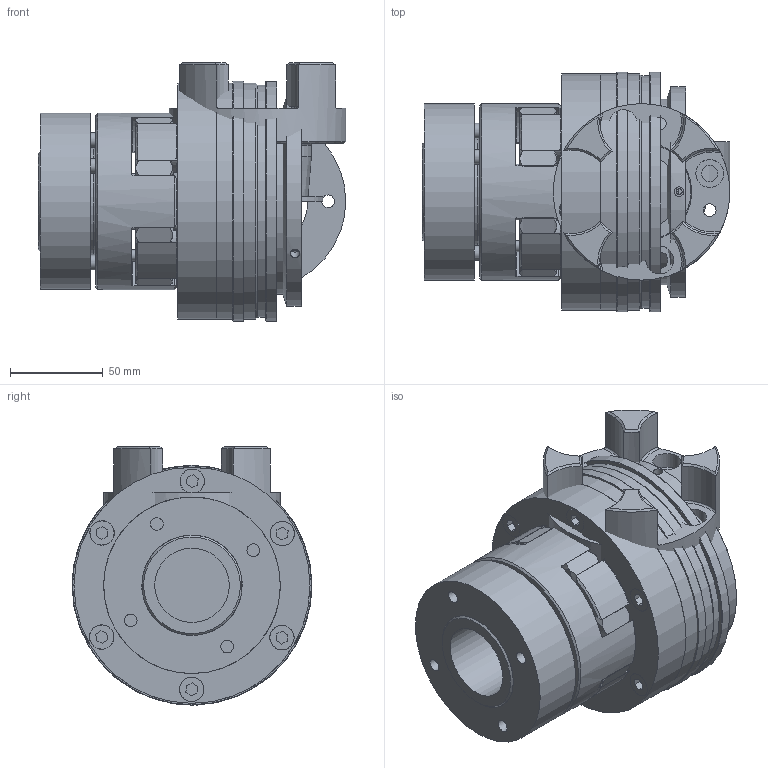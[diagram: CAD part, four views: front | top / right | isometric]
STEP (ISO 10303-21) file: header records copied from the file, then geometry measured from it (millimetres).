
FILE_DESCRIPTION( ( 'Unknown' ), '1' );
FILE_NAME( 'C:/Dokumente und Einstellungen/Sven/Desktop/hp kbk/E-AP/KBK EAP-42-159.stp', 'Unknown', ( 'Unknown' ), ( 'Unknown' ), 'XStep 1.0', 'Unknown', ' ' );
FILE_SCHEMA( ( 'automotive_design' ) );
Length unit declared in the file: millimetre
Products named in the file (17): Assem1; Assem2; Assem3; Zylinderschraube DIN 912_7; ball_bearing_-_6013_0_01_0; ball_bearing_-_6013_0_02_0; ball_bearing_-_6013_0_03_0; KBK L-P-500 Grundkörper_0; Stellring 500_0; Druckring 500_0; Flansch 500_0; a_65_0; Elastormerflansch 42_0; Zahnkranz 42_0; KBE 3 - 42_Druckring_0; ISO EN DIN 4762 M8x35; KBE 3 - 42_Nabe
Bounding box: 165.5 x 129 x 139 mm (x, y, z)
Volume: 2162403.8 mm3; surface area: 582722.4 mm2
Topology: 40 solids, 40 shells, 948 faces, 2086 edges, 1332 vertices
Faces by surface type: cylinder 346, plane 312, cone 229, torus 61
Full cylindrical faces by diameter (mm): 3 x4, 3.242 x6, 5.1 x6, 5.2 x6, 6 x16, 6.647 x12, 6.8 x16, 7 x5, 8 x18, 8.2 x12, 8.8 x8, 13 x13, 13.1 x12, 15 x8, 40 x4, 46 x4, 58 x2, 62 x2, 65 x7, 76.3 x6, 86 x4, 89.1 x6, 91 x2, 95 x4, 100 x7, 104.5 x2, 113 x2, 114 x2, 125 x4, 127 x2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
Entity records: 11018 total; most frequent: CARTESIAN_POINT 2444, DIRECTION 1852, ORIENTED_EDGE 1402, AXIS2_PLACEMENT_3D 861, EDGE_CURVE 701, EDGE_LOOP 632, VERTEX_POINT 519, FACE_OUTER_BOUND 490
